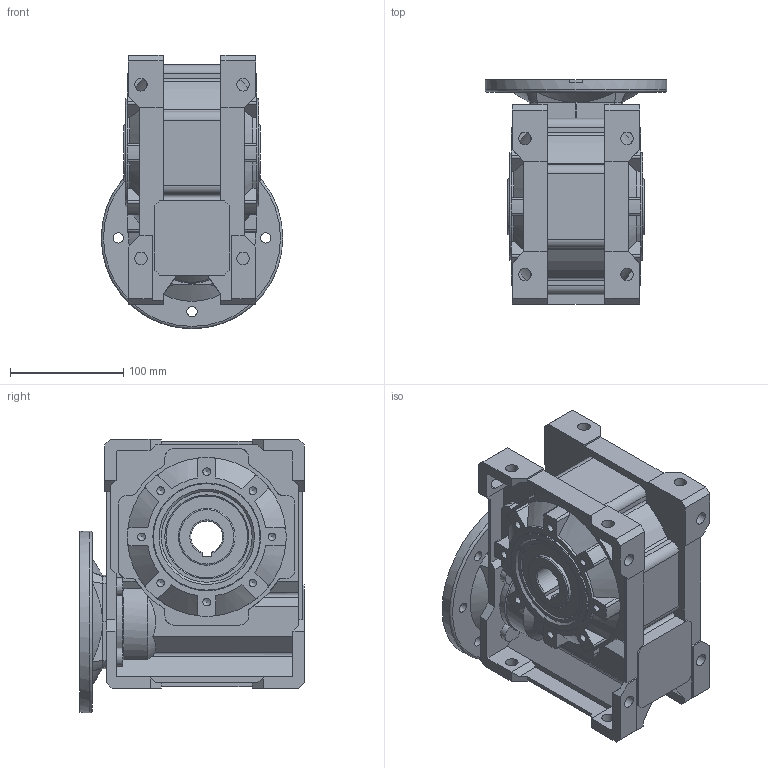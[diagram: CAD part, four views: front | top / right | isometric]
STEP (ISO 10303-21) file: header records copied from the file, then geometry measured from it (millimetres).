
FILE_DESCRIPTION( ( 'Unknown' ), '1' );
FILE_NAME( 'E:/services/configuratordownloads/customers/tramec/xh/download/2EF5556F67CF5A3956E80EBA2BB9C0/STEP/2EF5556F67CF5A3956E80EBA2BB9C0.3d.stp', 'Unknown', ( 'Unknown' ), ( 'Unknown' ), 'PSStep 10.1', 'Unknown', ' ' );
FILE_SCHEMA( ( 'AUTOMOTIVE_DESIGN { 1 0 10303 214 1 1 1 1 }' ) );
Length unit declared in the file: millimetre
Products named in the file (1): 1011630011
Bounding box: 160 x 198 x 241 mm (x, y, z)
Volume: 2426647 mm3; surface area: 368253.8 mm2
Topology: 1 solids, 3 shells, 683 faces, 1894 edges, 1235 vertices
Faces by surface type: plane 380, cylinder 215, cone 69, torus 18, extrusion 1
Full cylindrical faces by diameter (mm): 0.1 x1, 6.8 x16, 9 x8, 11 x12, 40 x1, 50 x3, 58 x1, 72.01 x1, 80 x2, 95 x2, 110 x1, 118 x1, 130 x1, 160 x1
Entity records: 27817 total; most frequent: CARTESIAN_POINT 5267, DIRECTION 3519, ORIENTED_EDGE 3512, EDGE_CURVE 1756, AXIS2_PLACEMENT_3D 1266, VERTEX_POINT 1197, VECTOR 987, LINE 986
